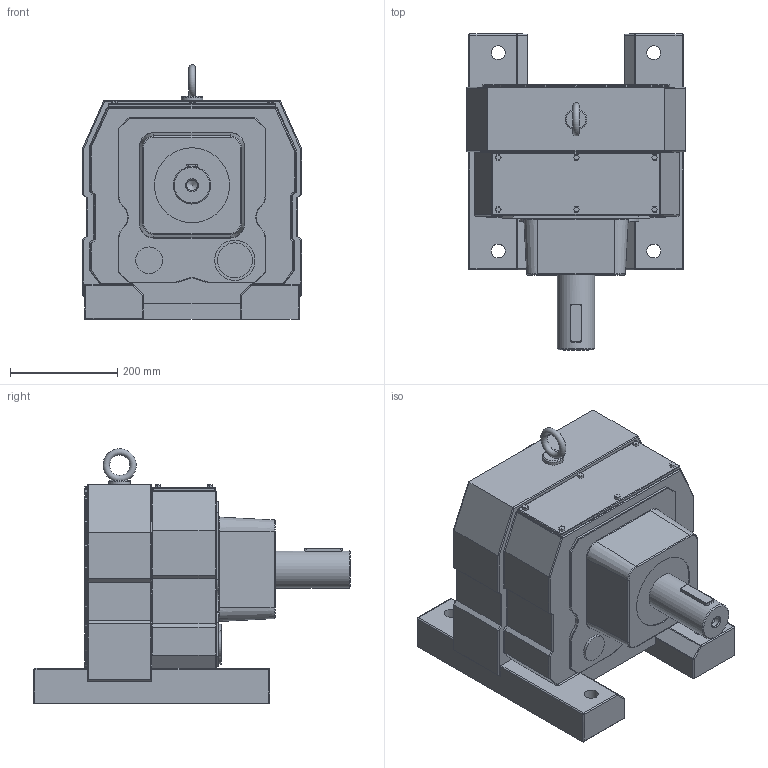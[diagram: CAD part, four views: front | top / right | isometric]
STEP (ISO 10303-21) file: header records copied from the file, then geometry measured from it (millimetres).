
FILE_DESCRIPTION((''),'2;1');
FILE_NAME('D:\PAWEŁ\ZLECENIA\2011 DualSystem\Przekładnie DR\DR100\STEP\DR100.stp','2012-06-11T12:26:47',('admin'),(''),'Autodesk Inventor 2009','Autodesk Inventor 2009','');
FILE_SCHEMA(('AUTOMOTIVE_DESIGN { 1 0 10303 214 1 1 1 1 }'));
Length unit declared in the file: millimetre
Products named in the file (1): DR100
Bounding box: 409 x 590 x 474.97 mm (x, y, z)
Volume: 44388436 mm3; surface area: 1063844.7 mm2
Topology: 2 solids, 2 shells, 469 faces, 1100 edges, 604 vertices
Faces by surface type: cylinder 226, plane 142, sphere 56, bspline 20, torus 19, cone 6
Full cylindrical faces by diameter (mm): 26 x4, 32 x4, 40 x1, 50 x1, 65 x1, 70 x1, 75 x1, 140 x1, 260 x1, 350 x1
Entity records: 14497 total; most frequent: CARTESIAN_POINT 3809, DIRECTION 2343, ORIENTED_EDGE 2036, EDGE_CURVE 1018, AXIS2_PLACEMENT_3D 890, VERTEX_POINT 600, VECTOR 563, LINE 563
